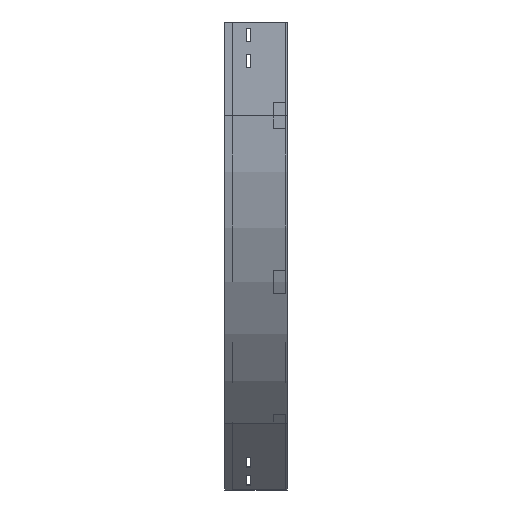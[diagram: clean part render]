
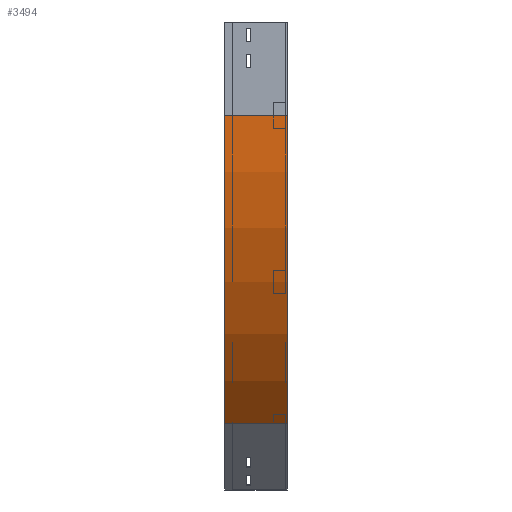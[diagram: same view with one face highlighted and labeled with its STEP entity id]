
A CAD part, left-side view. The second image highlights one B-rep face of the part: STEP entity #3494.
In plain terms, the highlighted cylindrical face has radius 700 mm (diameter 1400 mm), a partial arc.
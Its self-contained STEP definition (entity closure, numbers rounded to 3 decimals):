
#148 = CARTESIAN_POINT ( 'NONE',  ( 205.025, 0., -644.975 ) ) ;
#236 = AXIS2_PLACEMENT_3D ( 'NONE', #2855, #3490, #1101 ) ;
#393 = CARTESIAN_POINT ( 'NONE',  ( 700., 0., -150. ) ) ;
#517 = DIRECTION ( 'NONE',  ( 0., -1., 0. ) ) ;
#608 = ORIENTED_EDGE ( 'NONE', *, *, #2671, .F. ) ;
#663 = VECTOR ( 'NONE', #517, 1000. ) ;
#683 = FACE_OUTER_BOUND ( 'NONE', #3582, .T. ) ;
#881 = VERTEX_POINT ( 'NONE', #148 ) ;
#933 = VECTOR ( 'NONE', #2339, 1000. ) ;
#952 = EDGE_CURVE ( 'NONE', #1170, #881, #3743, .T. ) ;
#1051 = CARTESIAN_POINT ( 'NONE',  ( 205.025, 100., -644.975 ) ) ;
#1097 = AXIS2_PLACEMENT_3D ( 'NONE', #393, #2761, #3644 ) ;
#1101 = DIRECTION ( 'NONE',  ( -1., 0., 0. ) ) ;
#1170 = VERTEX_POINT ( 'NONE', #1051 ) ;
#1351 = DIRECTION ( 'NONE',  ( 0., -1., 0. ) ) ;
#1389 = LINE ( 'NONE', #2059, #663 ) ;
#1499 = VERTEX_POINT ( 'NONE', #2827 ) ;
#1872 = CYLINDRICAL_SURFACE ( 'NONE', #1097, 700. ) ;
#1895 = ORIENTED_EDGE ( 'NONE', *, *, #952, .T. ) ;
#2059 = CARTESIAN_POINT ( 'NONE',  ( 0., 0., -150. ) ) ;
#2278 = CARTESIAN_POINT ( 'NONE',  ( 205.025, 0., -644.975 ) ) ;
#2339 = DIRECTION ( 'NONE',  ( 0., -1., 0. ) ) ;
#2348 = ORIENTED_EDGE ( 'NONE', *, *, #2579, .F. ) ;
#2579 = EDGE_CURVE ( 'NONE', #1499, #881, #2841, .T. ) ;
#2671 = EDGE_CURVE ( 'NONE', #3815, #1499, #1389, .T. ) ;
#2761 = DIRECTION ( 'NONE',  ( 0., -1., 0. ) ) ;
#2827 = CARTESIAN_POINT ( 'NONE',  ( 0., 0., -150. ) ) ;
#2836 = CIRCLE ( 'NONE', #236, 700. ) ;
#2841 = CIRCLE ( 'NONE', #3387, 700. ) ;
#2855 = CARTESIAN_POINT ( 'NONE',  ( 700., 100., -150. ) ) ;
#2895 = EDGE_CURVE ( 'NONE', #3815, #1170, #2836, .T. ) ;
#3192 = ORIENTED_EDGE ( 'NONE', *, *, #2895, .T. ) ;
#3387 = AXIS2_PLACEMENT_3D ( 'NONE', #3443, #1351, #3717 ) ;
#3443 = CARTESIAN_POINT ( 'NONE',  ( 700., 0., -150. ) ) ;
#3490 = DIRECTION ( 'NONE',  ( 0., -1., 0. ) ) ;
#3494 = ADVANCED_FACE ( 'NONE', ( #683 ), #1872, .T. ) ;
#3582 = EDGE_LOOP ( 'NONE', ( #2348, #608, #3192, #1895 ) ) ;
#3644 = DIRECTION ( 'NONE',  ( 0., 0., -1. ) ) ;
#3657 = CARTESIAN_POINT ( 'NONE',  ( 0., 100., -150. ) ) ;
#3717 = DIRECTION ( 'NONE',  ( -1., 0., 0. ) ) ;
#3743 = LINE ( 'NONE', #2278, #933 ) ;
#3815 = VERTEX_POINT ( 'NONE', #3657 ) ;
